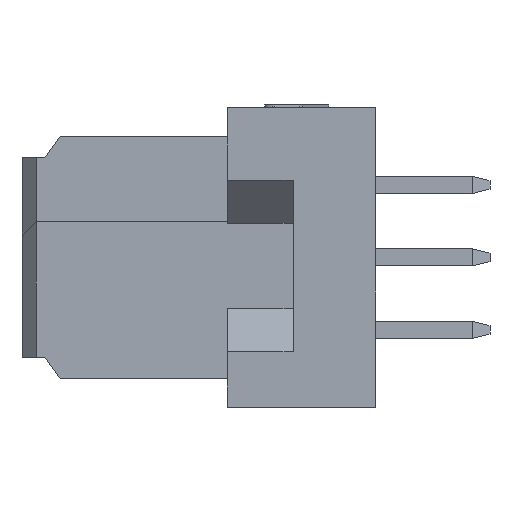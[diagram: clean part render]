
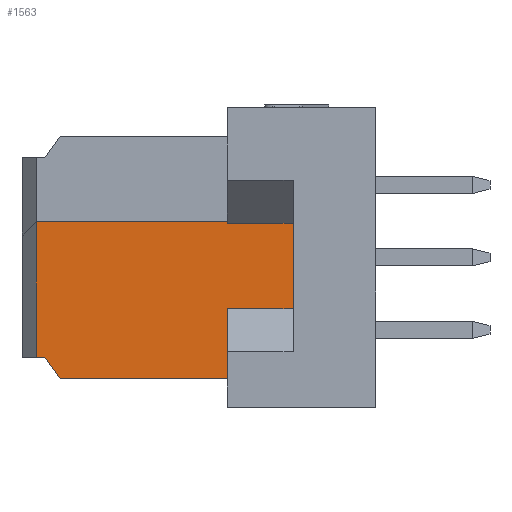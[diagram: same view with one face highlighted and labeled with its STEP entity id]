
A CAD part, left-side view. The second image highlights one B-rep face of the part: STEP entity #1563.
In plain terms, the highlighted planar face has unit normal (-1, 0, 0).
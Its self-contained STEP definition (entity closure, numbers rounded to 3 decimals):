
#86 = ORIENTED_EDGE ( 'NONE', *, *, #1825, .T. ) ;
#87 = ORIENTED_EDGE ( 'NONE', *, *, #1807, .F. ) ;
#88 = ORIENTED_EDGE ( 'NONE', *, *, #1817, .F. ) ;
#89 = ORIENTED_EDGE ( 'NONE', *, *, #1821, .F. ) ;
#90 = ORIENTED_EDGE ( 'NONE', *, *, #1766, .F. ) ;
#91 = ORIENTED_EDGE ( 'NONE', *, *, #1822, .F. ) ;
#92 = ORIENTED_EDGE ( 'NONE', *, *, #24641, .F. ) ;
#93 = ORIENTED_EDGE ( 'NONE', *, *, #24643, .F. ) ;
#94 = ORIENTED_EDGE ( 'NONE', *, *, #24889, .T. ) ;
#95 = ORIENTED_EDGE ( 'NONE', *, *, #24636, .F. ) ;
#467 = VERTEX_POINT ( 'NONE', #5617 ) ;
#675 = VERTEX_POINT ( 'NONE', #5824 ) ;
#677 = VERTEX_POINT ( 'NONE', #5826 ) ;
#699 = VERTEX_POINT ( 'NONE', #5848 ) ;
#703 = VERTEX_POINT ( 'NONE', #5852 ) ;
#708 = VERTEX_POINT ( 'NONE', #5857 ) ;
#1131 = VERTEX_POINT ( 'NONE', #6280 ) ;
#1137 = VERTEX_POINT ( 'NONE', #6286 ) ;
#1138 = VERTEX_POINT ( 'NONE', #6287 ) ;
#1286 = VERTEX_POINT ( 'NONE', #6430 ) ;
#1563 = ADVANCED_FACE ( 'NONE', ( #26368 ), #26351, .F. ) ;
#1766 = EDGE_CURVE ( 'NONE', #677, #675, #28483, .T. ) ;
#1807 = EDGE_CURVE ( 'NONE', #708, #699, #28581, .T. ) ;
#1817 = EDGE_CURVE ( 'NONE', #703, #708, #28587, .T. ) ;
#1821 = EDGE_CURVE ( 'NONE', #675, #703, #28615, .T. ) ;
#1822 = EDGE_CURVE ( 'NONE', #1286, #677, #28618, .T. ) ;
#1825 = EDGE_CURVE ( 'NONE', #467, #699, #28588, .T. ) ;
#2795 = AXIS2_PLACEMENT_3D ( 'NONE', #26380, #26381, #26382 ) ;
#5617 = CARTESIAN_POINT ( 'NONE',  ( -42.5, 11.064, -4.25 ) ) ;
#5824 = CARTESIAN_POINT ( 'NONE',  ( -42.5, 2.9, 1.2 ) ) ;
#5826 = CARTESIAN_POINT ( 'NONE',  ( -42.5, 5.2, 1.2 ) ) ;
#5848 = CARTESIAN_POINT ( 'NONE',  ( -42.5, 5.2, -4.25 ) ) ;
#5852 = CARTESIAN_POINT ( 'NONE',  ( -42.5, 2.9, -1.8 ) ) ;
#5857 = CARTESIAN_POINT ( 'NONE',  ( -42.5, 5.2, -1.8 ) ) ;
#6280 = CARTESIAN_POINT ( 'NONE',  ( -42.5, 11.6, -3.5 ) ) ;
#6286 = CARTESIAN_POINT ( 'NONE',  ( -42.5, 11.9, -3.5 ) ) ;
#6287 = CARTESIAN_POINT ( 'NONE',  ( -42.5, 11.9, 1.25 ) ) ;
#6430 = CARTESIAN_POINT ( 'NONE',  ( -42.5, 5.2, 1.25 ) ) ;
#9361 = EDGE_LOOP ( 'NONE', ( #86, #87, #88, #89, #90, #91, #92, #93, #94, #95 ) ) ;
#11002 = VECTOR ( 'NONE', #12282, 1000. ) ;
#11006 = VECTOR ( 'NONE', #12292, 1000. ) ;
#11008 = VECTOR ( 'NONE', #12298, 1000. ) ;
#11224 = VECTOR ( 'NONE', #12876, 1000. ) ;
#12263 = LINE ( 'NONE', #12281, #11002 ) ;
#12281 = CARTESIAN_POINT ( 'NONE',  ( -42.5, 11.064, -4.25 ) ) ;
#12282 = DIRECTION ( 'NONE',  ( 0., 0.581, 0.814 ) ) ;
#12289 = LINE ( 'NONE', #12291, #11006 ) ;
#12291 = CARTESIAN_POINT ( 'NONE',  ( -42.5, 11.6, 1.25 ) ) ;
#12292 = DIRECTION ( 'NONE',  ( 0., -1., 0. ) ) ;
#12295 = LINE ( 'NONE', #12297, #11008 ) ;
#12297 = CARTESIAN_POINT ( 'NONE',  ( -42.5, 11.9, -4.2 ) ) ;
#12298 = DIRECTION ( 'NONE',  ( 0., 0., 1. ) ) ;
#12874 = LINE ( 'NONE', #12875, #11224 ) ;
#12875 = CARTESIAN_POINT ( 'NONE',  ( -42.5, 12.5, -3.5 ) ) ;
#12876 = DIRECTION ( 'NONE',  ( 0., -1., 0. ) ) ;
#24636 = EDGE_CURVE ( 'NONE', #467, #1131, #12263, .T. ) ;
#24641 = EDGE_CURVE ( 'NONE', #1138, #1286, #12289, .T. ) ;
#24643 = EDGE_CURVE ( 'NONE', #1137, #1138, #12295, .T. ) ;
#24889 = EDGE_CURVE ( 'NONE', #1137, #1131, #12874, .T. ) ;
#26351 = PLANE ( 'NONE',  #2795 ) ;
#26368 = FACE_OUTER_BOUND ( 'NONE', #9361, .T. ) ;
#26380 = CARTESIAN_POINT ( 'NONE',  ( -42.5, 11.6, -4.2 ) ) ;
#26381 = DIRECTION ( 'NONE',  ( 1., 0., 0. ) ) ;
#26382 = DIRECTION ( 'NONE',  ( 0., 0., -1. ) ) ;
#28483 = LINE ( 'NONE', #28490, #33838 ) ;
#28490 = CARTESIAN_POINT ( 'NONE',  ( -42.5, 11.6, 1.2 ) ) ;
#28492 = DIRECTION ( 'NONE',  ( 0., -1., 0. ) ) ;
#28581 = LINE ( 'NONE', #28582, #33875 ) ;
#28582 = CARTESIAN_POINT ( 'NONE',  ( -42.5, 5.2, 5.25 ) ) ;
#28583 = DIRECTION ( 'NONE',  ( 0., 0., -1. ) ) ;
#28587 = LINE ( 'NONE', #28607, #33878 ) ;
#28588 = LINE ( 'NONE', #28627, #33884 ) ;
#28607 = CARTESIAN_POINT ( 'NONE',  ( -42.5, 11.6, -1.8 ) ) ;
#28608 = DIRECTION ( 'NONE',  ( 0., 1., 0. ) ) ;
#28615 = LINE ( 'NONE', #28616, #33887 ) ;
#28616 = CARTESIAN_POINT ( 'NONE',  ( -42.5, 2.9, 2.7 ) ) ;
#28617 = DIRECTION ( 'NONE',  ( 0., 0., -1. ) ) ;
#28618 = LINE ( 'NONE', #28619, #33888 ) ;
#28619 = CARTESIAN_POINT ( 'NONE',  ( -42.5, 5.2, 5.25 ) ) ;
#28620 = DIRECTION ( 'NONE',  ( 0., 0., -1. ) ) ;
#28627 = CARTESIAN_POINT ( 'NONE',  ( -42.5, 11.6, -4.25 ) ) ;
#28629 = DIRECTION ( 'NONE',  ( 0., -1., 0. ) ) ;
#33838 = VECTOR ( 'NONE', #28492, 1000. ) ;
#33875 = VECTOR ( 'NONE', #28583, 1000. ) ;
#33878 = VECTOR ( 'NONE', #28608, 1000. ) ;
#33884 = VECTOR ( 'NONE', #28629, 1000. ) ;
#33887 = VECTOR ( 'NONE', #28617, 1000. ) ;
#33888 = VECTOR ( 'NONE', #28620, 1000. ) ;
